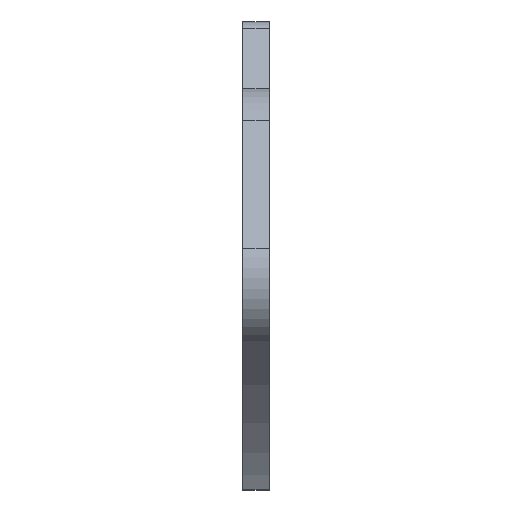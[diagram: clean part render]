
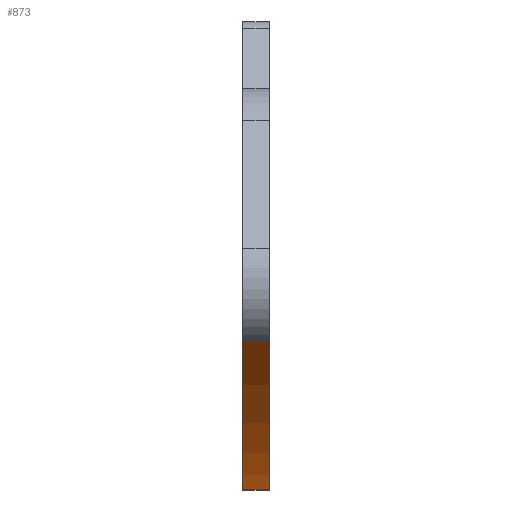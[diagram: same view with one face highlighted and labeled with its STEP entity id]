
A CAD part, left-side view. The second image highlights one B-rep face of the part: STEP entity #873.
In plain terms, the highlighted cylindrical face has radius 320 mm (diameter 640 mm), a partial arc.
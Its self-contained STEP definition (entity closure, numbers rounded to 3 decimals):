
#216=CYLINDRICAL_SURFACE('',#5449,320.);
#255=CIRCLE('',#5423,320.);
#274=CIRCLE('',#5448,320.);
#873=ADVANCED_FACE('',(#1376),#216,.T.);
#1376=FACE_OUTER_BOUND('',#1686,.T.);
#1686=EDGE_LOOP('',(#2312,#2313,#2314,#2315));
#2312=ORIENTED_EDGE('',*,*,#4107,.T.);
#2313=ORIENTED_EDGE('',*,*,#4327,.T.);
#2314=ORIENTED_EDGE('',*,*,#4328,.F.);
#2315=ORIENTED_EDGE('',*,*,#4329,.T.);
#3567=VERTEX_POINT('',#7702);
#3568=VERTEX_POINT('',#7704);
#3782=VERTEX_POINT('',#9033);
#3783=VERTEX_POINT('',#9035);
#4107=EDGE_CURVE('',#3568,#3567,#255,.T.);
#4327=EDGE_CURVE('',#3567,#3782,#4840,.T.);
#4328=EDGE_CURVE('',#3783,#3782,#274,.T.);
#4329=EDGE_CURVE('',#3783,#3568,#4841,.T.);
#4840=LINE('',#9032,#5120);
#4841=LINE('',#9036,#5121);
#5120=VECTOR('',#5876,1.);
#5121=VECTOR('',#5879,1.);
#5423=AXIS2_PLACEMENT_3D('',#7703,#5808,#5809);
#5448=AXIS2_PLACEMENT_3D('',#9034,#5877,#5878);
#5449=AXIS2_PLACEMENT_3D('',#9037,#5880,#5881);
#5808=DIRECTION('',(0.,-1.,0.));
#5809=DIRECTION('',(0.932,0.,-0.363));
#5876=DIRECTION('',(0.,-1.,0.));
#5877=DIRECTION('',(0.,-1.,0.));
#5878=DIRECTION('',(0.932,0.,-0.363));
#5879=DIRECTION('',(0.,1.,0.));
#5880=DIRECTION('',(0.,1.,0.));
#5881=DIRECTION('',(0.,0.,1.));
#7702=CARTESIAN_POINT('',(-36.493,-766.,-317.912));
#7703=CARTESIAN_POINT('',(0.,-766.,0.));
#7704=CARTESIAN_POINT('',(-165.84,-766.,-273.673));
#9032=CARTESIAN_POINT('',(-36.493,-774.,-317.912));
#9033=CARTESIAN_POINT('',(-36.493,-774.,-317.912));
#9034=CARTESIAN_POINT('',(0.,-774.,0.));
#9035=CARTESIAN_POINT('',(-165.84,-774.,-273.673));
#9036=CARTESIAN_POINT('',(-165.84,-774.,-273.673));
#9037=CARTESIAN_POINT('',(0.,-774.,0.));
